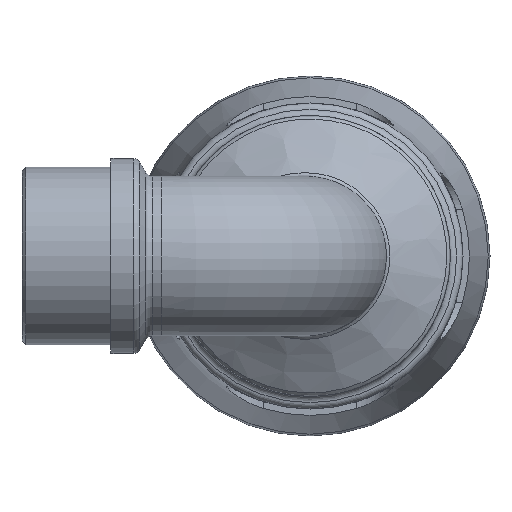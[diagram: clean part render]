
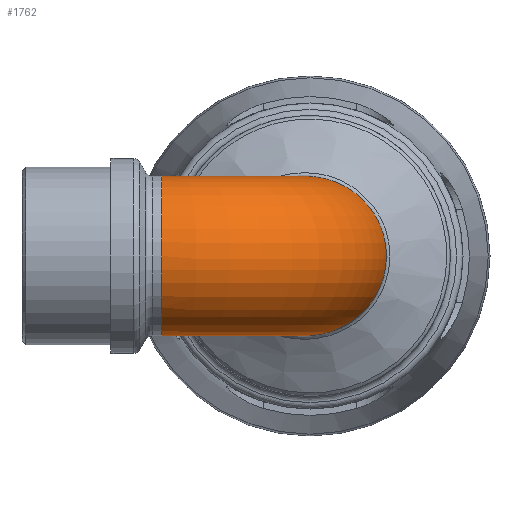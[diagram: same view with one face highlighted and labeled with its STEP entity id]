
A CAD part, left-side view. The second image highlights one B-rep face of the part: STEP entity #1762.
In plain terms, the highlighted toroidal (fillet/blend) face has major radius 34.998 mm and minor radius 18.86 mm.
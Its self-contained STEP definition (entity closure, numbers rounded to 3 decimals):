
#236=B_SPLINE_CURVE_WITH_KNOTS('',3,(#2670,#2671,#2672,#2673,#2674,#2675,
#2676,#2677,#2678,#2679,#2680,#2681,#2682,#2683,#2684,#2685,#2686),
 .UNSPECIFIED.,.T.,.F.,(4,1,1,1,1,1,1,1,1,1,1,1,1,1,4),(-3.142,
-2.693,-2.244,-1.795,-1.346,
-1.047,-0.449,0.15,0.449,
0.898,1.346,1.795,2.244,2.693,
3.142),.UNSPECIFIED.);
#357=FACE_BOUND('',#512,.T.);
#389=FACE_OUTER_BOUND('',#511,.T.);
#511=EDGE_LOOP('',(#1167));
#512=EDGE_LOOP('',(#1168));
#634=CIRCLE('',#1873,18.86);
#731=VERTEX_POINT('',#2580);
#733=VERTEX_POINT('',#2668);
#894=EDGE_CURVE('',#731,#731,#634,.T.);
#896=EDGE_CURVE('',#733,#733,#236,.T.);
#1167=ORIENTED_EDGE('',*,*,#896,.F.);
#1168=ORIENTED_EDGE('',*,*,#894,.T.);
#1632=TOROIDAL_SURFACE('',#1887,34.998,18.86);
#1762=ADVANCED_FACE('',(#389,#357),#1632,.T.);
#1873=AXIS2_PLACEMENT_3D('',#2581,#2091,#2092);
#1887=AXIS2_PLACEMENT_3D('',#2931,#2120,#2121);
#2091=DIRECTION('center_axis',(0.,-1.,0.));
#2092=DIRECTION('ref_axis',(-1.,0.,0.));
#2120=DIRECTION('center_axis',(0.,0.,1.));
#2121=DIRECTION('ref_axis',(1.,0.,0.));
#2580=CARTESIAN_POINT('',(18.86,34.998,0.));
#2581=CARTESIAN_POINT('Origin',(0.,34.998,0.));
#2668=CARTESIAN_POINT('',(25.169,22.198,0.));
#2670=CARTESIAN_POINT('Ctrl Pts',(25.17,22.203,0.));
#2671=CARTESIAN_POINT('Ctrl Pts',(25.17,22.203,2.88));
#2672=CARTESIAN_POINT('Ctrl Pts',(25.132,20.452,8.642));
#2673=CARTESIAN_POINT('Ctrl Pts',(25.168,14.293,15.187));
#2674=CARTESIAN_POINT('Ctrl Pts',(25.297,6.161,18.926));
#2675=CARTESIAN_POINT('Ctrl Pts',(25.405,-1.773,19.068));
#2676=CARTESIAN_POINT('Ctrl Pts',(25.499,-10.055,16.118));
#2677=CARTESIAN_POINT('Ctrl Pts',(25.561,-17.155,8.924));
#2678=CARTESIAN_POINT('Ctrl Pts',(25.573,-18.709,-1.07));
#2679=CARTESIAN_POINT('Ctrl Pts',(25.551,-16.008,-9.424));
#2680=CARTESIAN_POINT('Ctrl Pts',(25.507,-10.919,-15.49));
#2681=CARTESIAN_POINT('Ctrl Pts',(25.419,-2.765,-19.094));
#2682=CARTESIAN_POINT('Ctrl Pts',(25.297,6.16,-18.923));
#2683=CARTESIAN_POINT('Ctrl Pts',(25.169,14.293,-15.189));
#2684=CARTESIAN_POINT('Ctrl Pts',(25.132,20.452,-8.641));
#2685=CARTESIAN_POINT('Ctrl Pts',(25.17,22.203,-2.881));
#2686=CARTESIAN_POINT('Ctrl Pts',(25.17,22.203,0.));
#2931=CARTESIAN_POINT('Origin',(34.998,34.998,0.));
